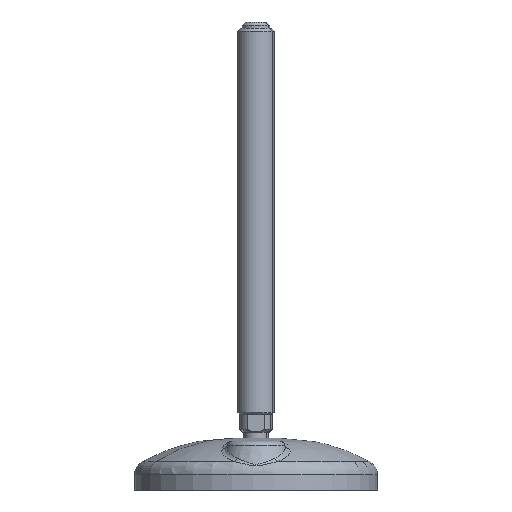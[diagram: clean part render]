
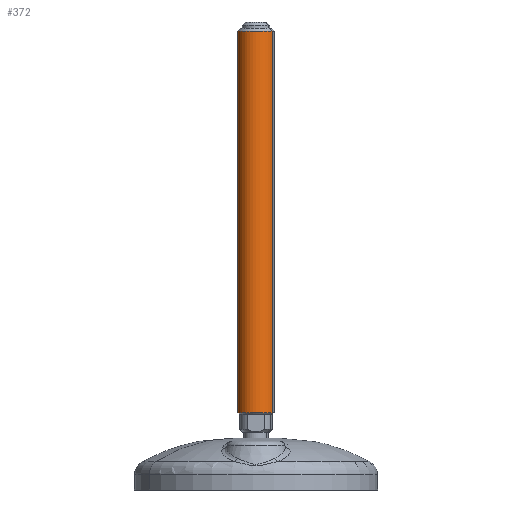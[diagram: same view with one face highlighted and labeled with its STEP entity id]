
A CAD part, left-side view. The second image highlights one B-rep face of the part: STEP entity #372.
In plain terms, the highlighted cylindrical face has radius 6 mm (diameter 12 mm), a partial arc.
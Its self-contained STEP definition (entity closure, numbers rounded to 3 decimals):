
#158=CARTESIAN_POINT('Vertex',(2.877,5.265,137.5)) ;
#160=CARTESIAN_POINT('Vertex',(-2.877,-5.265,137.5)) ;
#189=CARTESIAN_POINT('Axis2P3D Location',(0.,0.,137.5)) ;
#330=CARTESIAN_POINT('Axis2P3D Location',(0.,0.,67.75)) ;
#335=CARTESIAN_POINT('Line Origine',(2.877,5.265,74.5)) ;
#339=CARTESIAN_POINT('Vertex',(2.877,5.265,12.)) ;
#342=CARTESIAN_POINT('Line Origine',(-2.877,-5.265,74.5)) ;
#346=CARTESIAN_POINT('Vertex',(-2.877,-5.265,12.)) ;
#361=CARTESIAN_POINT('Axis2P3D Location',(0.,0.,12.)) ;
#190=DIRECTION('Axis2P3D Direction',(0.,0.,-1.)) ;
#331=DIRECTION('Axis2P3D Direction',(0.,0.,-1.)) ;
#332=DIRECTION('Axis2P3D XDirection',(0.479,0.878,0.)) ;
#336=DIRECTION('Vector Direction',(0.,0.,-1.)) ;
#343=DIRECTION('Vector Direction',(0.,0.,-1.)) ;
#362=DIRECTION('Axis2P3D Direction',(0.,0.,-1.)) ;
#191=AXIS2_PLACEMENT_3D('Circle Axis2P3D',#189,#190,$) ;
#333=AXIS2_PLACEMENT_3D('Cylinder Axis2P3D',#330,#331,#332) ;
#363=AXIS2_PLACEMENT_3D('Circle Axis2P3D',#361,#362,$) ;
#367=ORIENTED_EDGE('',*,*,#348,.T.) ;
#368=ORIENTED_EDGE('',*,*,#193,.T.) ;
#369=ORIENTED_EDGE('',*,*,#341,.F.) ;
#370=ORIENTED_EDGE('',*,*,#365,.F.) ;
#337=VECTOR('Line Direction',#336,1.) ;
#344=VECTOR('Line Direction',#343,1.) ;
#372=ADVANCED_FACE('PartBody',(#371),#334,.T.) ;
#192=CIRCLE('generated circle',#191,6.) ;
#364=CIRCLE('generated circle',#363,6.) ;
#334=CYLINDRICAL_SURFACE('generated cylinder',#333,6.) ;
#193=EDGE_CURVE('',#161,#159,#192,.T.) ;
#341=EDGE_CURVE('',#340,#159,#338,.F.) ;
#348=EDGE_CURVE('',#347,#161,#345,.F.) ;
#365=EDGE_CURVE('',#347,#340,#364,.T.) ;
#366=EDGE_LOOP('',(#367,#368,#369,#370)) ;
#371=FACE_OUTER_BOUND('',#366,.T.) ;
#338=LINE('Line',#335,#337) ;
#345=LINE('Line',#342,#344) ;
#159=VERTEX_POINT('',#158) ;
#161=VERTEX_POINT('',#160) ;
#340=VERTEX_POINT('',#339) ;
#347=VERTEX_POINT('',#346) ;
